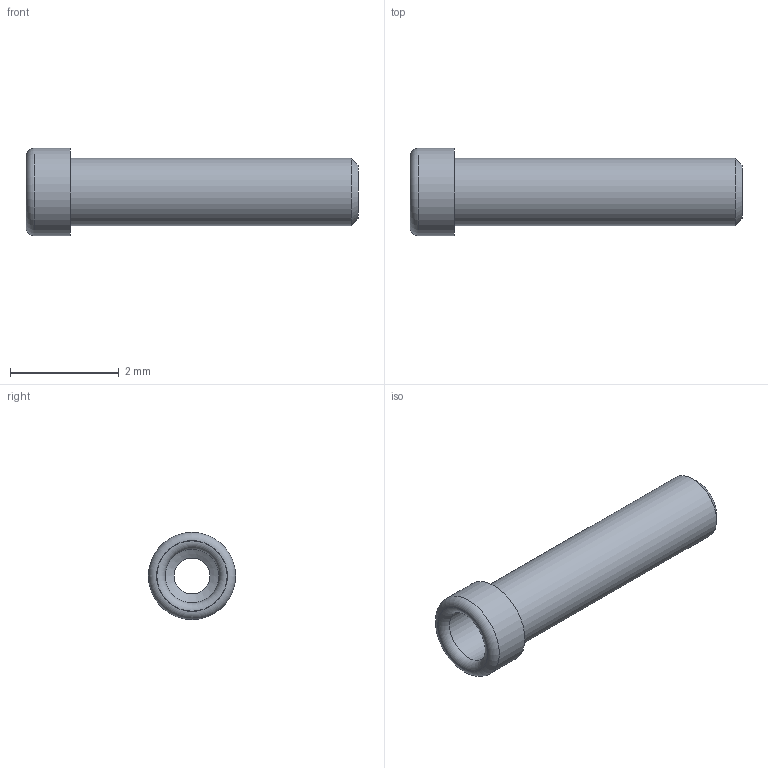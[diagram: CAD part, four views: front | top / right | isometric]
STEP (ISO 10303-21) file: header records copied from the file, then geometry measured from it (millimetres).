
FILE_DESCRIPTION(/* description */ (''),/* implementation_level */ '2;1');
FILE_NAME(/* name */ '\\Snap1\dwgs\Customer 3D Models\450\450-2598 Customer model.stp',/* time_stamp */ '2016-12-13T17:05:31+00:00',/* author */ ('paulk'),/* organization */ (''),/* preprocessor_version */ 'ST-DEVELOPER v15.2',/* originating_system */ 'Autodesk Inventor 2014',/* authorisation */ '');
FILE_SCHEMA (('CONFIG_CONTROL_DESIGN'));
Length unit declared in the file: millimetre
Products named in the file (1): 450-2598 Customer model
Bounding box: 6.1 x 1.6 x 1.6 mm (x, y, z)
Volume: 3.5 mm3; surface area: 45.4 mm2
Topology: 1 solids, 1 shells, 11 faces, 20 edges, 12 vertices
Faces by surface type: cylinder 4, plane 3, torus 2, cone 2
Full cylindrical faces by diameter (mm): 0.66 x1, 0.991 x1, 1.245 x1, 1.6 x1
Entity records: 249 total; most frequent: DIRECTION 46, CARTESIAN_POINT 34, AXIS2_PLACEMENT_3D 23, EDGE_LOOP 22, ORIENTED_EDGE 22, FACE_BOUND 13, CIRCLE 11, VERTEX_POINT 11
